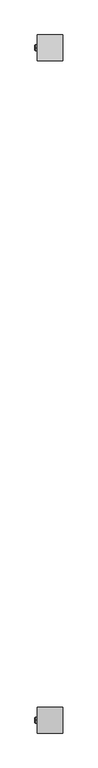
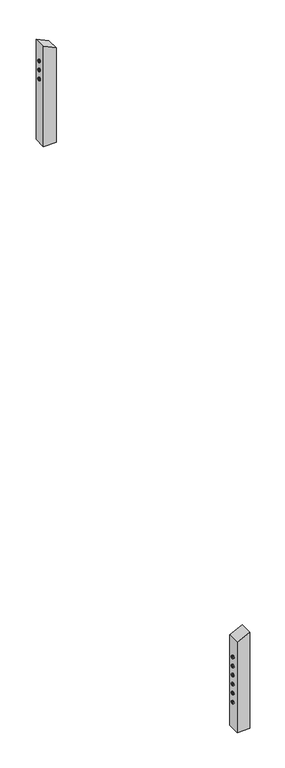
"""IFC4 building model written with IfcOpenShell, lengths in millimetres: railing geometry, HandiSwage Cable Railing System."""

from ifc_helpers import new_model, si_unit, point, frame, origin, place, context, project, spatial, polyline, circle_curve, ellipse_curve, trimmed, outline, extrude, source, transform, mapped, element, save
from ifc_brep_helpers import plane_surface, cylinder_surface, revolved_surface, advanced_brep


def railing_004ec19b(model_context):
    return source(origin(), model_context, "Body", "SolidModel", [
        advanced_brep(
        [(1654.9861243, 3759.4935787, 3984.737795), (1654.9861243, 3759.4935787, 3972.037795), (1654.9861243, 3759.4935787, 3997.437795), (1645.4611243, 3759.4935787, 3975.212795), (1645.4611243, 3759.4935787, 3984.737795), (1645.4611243, 3759.4935787, 3994.262795), (1648.6361243, 3759.4935787, 3972.037795), (1648.6361243, 3759.4935787, 3997.437795)],
        [
            (0, 1),
            (1, 2, circle_curve(frame((1654.9861243, 3759.4935787, 3984.737795), z_axis=(1.0, 0.0, 0.0), x_axis=(0.0, 0.0, 1.0)), 12.7)),
            (2, 0),
            (2, 1, circle_curve(frame((1654.9861243, 3759.4935787, 3984.737795), z_axis=(1.0, 0.0, 0.0), x_axis=(0.0, 0.0, 1.0)), 12.7)),
            (3, 4),
            (4, 5),
            (5, 3, circle_curve(frame((1645.4611243, 3759.4935787, 3984.737795), z_axis=(-1.0, 0.0, 0.0), x_axis=(0.0, 0.0, 1.0)), 9.525)),
            (3, 5, circle_curve(frame((1645.4611243, 3759.4935787, 3984.737795), z_axis=(-1.0, 0.0, 0.0), x_axis=(0.0, 0.0, 1.0)), 9.525)),
            (1, 6),
            (6, 7, circle_curve(frame((1648.6361243, 3759.4935787, 3984.737795), z_axis=(1.0, 0.0, 0.0), x_axis=(0.0, 0.0, 1.0)), 12.7)),
            (7, 2),
            (7, 6, circle_curve(frame((1648.6361243, 3759.4935787, 3984.737795), z_axis=(1.0, 0.0, 0.0), x_axis=(0.0, 0.0, 1.0)), 12.7)),
            (6, 3, circle_curve(frame((1648.6361243, 3759.4935787, 3975.212795), z_axis=(0.0, 1.0, 0.0), x_axis=(-1.0, 0.0, 0.0)), 3.175)),
            (5, 7, circle_curve(frame((1648.6361243, 3759.4935787, 3994.262795), z_axis=(0.0, 1.0, 0.0), x_axis=(-1.0, 0.0, 0.0)), 3.175)),
        ],
        [
            plane_surface(frame((1654.9861243, 3759.4935787, 3984.737795), z_axis=(1.0, 0.0, 0.0), x_axis=(0.0, 0.0, 1.0))),
            plane_surface(frame((1645.4611243, 3759.4935787, 3984.737795), z_axis=(-1.0, 0.0, 0.0), x_axis=(0.0, 0.0, 1.0))),
            cylinder_surface(frame((1654.9861243, 3759.4935787, 3984.737795), z_axis=(1.0, 0.0, 0.0), x_axis=(0.0, 0.0, 1.0)), 12.7),
            revolved_surface(trimmed(ellipse_curve(frame((1648.6361243, 3759.4935787, 3994.262795), z_axis=(0.0, 1.0, 0.0), x_axis=(-1.0, 0.0, 0.0)), 3.175, 3.175), [point((1645.4611243, 3759.4935787, 3994.262795))], [point((1648.6361243, 3759.4935787, 3997.437795))], True, "CARTESIAN"), (1654.9861243, 3759.4935787, 3984.737795), (1.0, 0.0, 0.0)),
        ],
        [
            (0, [[1, 2, 3]]),
            (0, [[-3, 4, -1]]),
            (1, [[5, 6, 7]]),
            (1, [[-6, -5, 8]]),
            (2, [[9, 10, 11, -2]]),
            (2, [[-11, 12, -9, -4]]),
            (3, [[13, -7, 14, -10]]),
            (3, [[-14, -8, -13, -12]]),
        ],
    ),
        advanced_brep(
        [(1654.9861243, 3759.4935787, 4060.937795), (1654.9861243, 3759.4935787, 4048.237795), (1654.9861243, 3759.4935787, 4073.637795), (1645.4611243, 3759.4935787, 4051.412795), (1645.4611243, 3759.4935787, 4060.937795), (1645.4611243, 3759.4935787, 4070.462795), (1648.6361243, 3759.4935787, 4048.237795), (1648.6361243, 3759.4935787, 4073.637795)],
        [
            (0, 1),
            (1, 2, circle_curve(frame((1654.9861243, 3759.4935787, 4060.937795), z_axis=(1.0, 0.0, 0.0), x_axis=(0.0, 0.0, 1.0)), 12.7)),
            (2, 0),
            (2, 1, circle_curve(frame((1654.9861243, 3759.4935787, 4060.937795), z_axis=(1.0, 0.0, 0.0), x_axis=(0.0, 0.0, 1.0)), 12.7)),
            (3, 4),
            (4, 5),
            (5, 3, circle_curve(frame((1645.4611243, 3759.4935787, 4060.937795), z_axis=(-1.0, 0.0, 0.0), x_axis=(0.0, 0.0, 1.0)), 9.525)),
            (3, 5, circle_curve(frame((1645.4611243, 3759.4935787, 4060.937795), z_axis=(-1.0, 0.0, 0.0), x_axis=(0.0, 0.0, 1.0)), 9.525)),
            (1, 6),
            (6, 7, circle_curve(frame((1648.6361243, 3759.4935787, 4060.937795), z_axis=(1.0, 0.0, 0.0), x_axis=(0.0, 0.0, 1.0)), 12.7)),
            (7, 2),
            (7, 6, circle_curve(frame((1648.6361243, 3759.4935787, 4060.937795), z_axis=(1.0, 0.0, 0.0), x_axis=(0.0, 0.0, 1.0)), 12.7)),
            (6, 3, circle_curve(frame((1648.6361243, 3759.4935787, 4051.412795), z_axis=(0.0, 1.0, 0.0), x_axis=(-1.0, 0.0, 0.0)), 3.175)),
            (5, 7, circle_curve(frame((1648.6361243, 3759.4935787, 4070.462795), z_axis=(0.0, 1.0, 0.0), x_axis=(-1.0, 0.0, 0.0)), 3.175)),
        ],
        [
            plane_surface(frame((1654.9861243, 3759.4935787, 4060.937795), z_axis=(1.0, 0.0, 0.0), x_axis=(0.0, 0.0, 1.0))),
            plane_surface(frame((1645.4611243, 3759.4935787, 4060.937795), z_axis=(-1.0, 0.0, 0.0), x_axis=(0.0, 0.0, 1.0))),
            cylinder_surface(frame((1654.9861243, 3759.4935787, 4060.937795), z_axis=(1.0, 0.0, 0.0), x_axis=(0.0, 0.0, 1.0)), 12.7),
            revolved_surface(trimmed(ellipse_curve(frame((1648.6361243, 3759.4935787, 4070.462795), z_axis=(0.0, 1.0, 0.0), x_axis=(-1.0, 0.0, 0.0)), 3.175, 3.175), [point((1645.4611243, 3759.4935787, 4070.462795))], [point((1648.6361243, 3759.4935787, 4073.637795))], True, "CARTESIAN"), (1654.9861243, 3759.4935787, 4060.937795), (1.0, 0.0, 0.0)),
        ],
        [
            (0, [[1, 2, 3]]),
            (0, [[-3, 4, -1]]),
            (1, [[5, 6, 7]]),
            (1, [[-6, -5, 8]]),
            (2, [[9, 10, 11, -2]]),
            (2, [[-11, 12, -9, -4]]),
            (3, [[13, -7, 14, -10]]),
            (3, [[-14, -8, -13, -12]]),
        ],
    ),
        advanced_brep(
        [(1654.9861243, 3759.4935787, 4137.137795), (1654.9861243, 3759.4935787, 4124.437795), (1654.9861243, 3759.4935787, 4149.837795), (1645.4611243, 3759.4935787, 4127.612795), (1645.4611243, 3759.4935787, 4137.137795), (1645.4611243, 3759.4935787, 4146.662795), (1648.6361243, 3759.4935787, 4124.437795), (1648.6361243, 3759.4935787, 4149.837795)],
        [
            (0, 1),
            (1, 2, circle_curve(frame((1654.9861243, 3759.4935787, 4137.137795), z_axis=(1.0, 0.0, 0.0), x_axis=(0.0, 0.0, 1.0)), 12.7)),
            (2, 0),
            (2, 1, circle_curve(frame((1654.9861243, 3759.4935787, 4137.137795), z_axis=(1.0, 0.0, 0.0), x_axis=(0.0, 0.0, 1.0)), 12.7)),
            (3, 4),
            (4, 5),
            (5, 3, circle_curve(frame((1645.4611243, 3759.4935787, 4137.137795), z_axis=(-1.0, 0.0, 0.0), x_axis=(0.0, 0.0, 1.0)), 9.525)),
            (3, 5, circle_curve(frame((1645.4611243, 3759.4935787, 4137.137795), z_axis=(-1.0, 0.0, 0.0), x_axis=(0.0, 0.0, 1.0)), 9.525)),
            (1, 6),
            (6, 7, circle_curve(frame((1648.6361243, 3759.4935787, 4137.137795), z_axis=(1.0, 0.0, 0.0), x_axis=(0.0, 0.0, 1.0)), 12.7)),
            (7, 2),
            (7, 6, circle_curve(frame((1648.6361243, 3759.4935787, 4137.137795), z_axis=(1.0, 0.0, 0.0), x_axis=(0.0, 0.0, 1.0)), 12.7)),
            (6, 3, circle_curve(frame((1648.6361243, 3759.4935787, 4127.612795), z_axis=(0.0, 1.0, 0.0), x_axis=(-1.0, 0.0, 0.0)), 3.175)),
            (5, 7, circle_curve(frame((1648.6361243, 3759.4935787, 4146.662795), z_axis=(0.0, 1.0, 0.0), x_axis=(-1.0, 0.0, 0.0)), 3.175)),
        ],
        [
            plane_surface(frame((1654.9861243, 3759.4935787, 4137.137795), z_axis=(1.0, 0.0, 0.0), x_axis=(0.0, 0.0, 1.0))),
            plane_surface(frame((1645.4611243, 3759.4935787, 4137.137795), z_axis=(-1.0, 0.0, 0.0), x_axis=(0.0, 0.0, 1.0))),
            cylinder_surface(frame((1654.9861243, 3759.4935787, 4137.137795), z_axis=(1.0, 0.0, 0.0), x_axis=(0.0, 0.0, 1.0)), 12.7),
            revolved_surface(trimmed(ellipse_curve(frame((1648.6361243, 3759.4935787, 4146.662795), z_axis=(0.0, 1.0, 0.0), x_axis=(-1.0, 0.0, 0.0)), 3.175, 3.175), [point((1645.4611243, 3759.4935787, 4146.662795))], [point((1648.6361243, 3759.4935787, 4149.837795))], True, "CARTESIAN"), (1654.9861243, 3759.4935787, 4137.137795), (1.0, 0.0, 0.0)),
        ],
        [
            (0, [[1, 2, 3]]),
            (0, [[-3, 4, -1]]),
            (1, [[5, 6, 7]]),
            (1, [[-6, -5, 8]]),
            (2, [[9, 10, 11, -2]]),
            (2, [[-11, 12, -9, -4]]),
            (3, [[13, -7, 14, -10]]),
            (3, [[-14, -8, -13, -12]]),
        ],
    ),
        extrude(outline(polyline([(3445.5652174, 1756.5861243), (4239.5403, 1756.5861243), (4287.7300233, 1654.9861243), (3445.5652174, 1654.9861243), (3445.5652174, 1756.5861243)])), frame((0.0, 3708.6935787, 0.0), z_axis=(0.0, 1.0, 0.0), x_axis=(0.0, 0.0, 1.0)), (0.0, 0.0, 1.0), 101.6),
        advanced_brep(
        [(1654.9861243, 1092.4935787, 359.8717342), (1654.9861243, 1092.4935787, 372.5717342), (1654.9861243, 1092.4935787, 347.1717342), (1645.4611243, 1092.4935787, 350.3467342), (1645.4611243, 1092.4935787, 369.3967342), (1645.4611243, 1092.4935787, 359.8717342), (1648.6361243, 1092.4935787, 372.5717342), (1648.6361243, 1092.4935787, 347.1717342)],
        [
            (0, 1),
            (1, 2, circle_curve(frame((1654.9861243, 1092.4935787, 359.8717342), z_axis=(1.0, 0.0, 0.0), x_axis=(0.0, 0.0, 1.0)), 12.7)),
            (2, 0),
            (2, 1, circle_curve(frame((1654.9861243, 1092.4935787, 359.8717342), z_axis=(1.0, 0.0, 0.0), x_axis=(0.0, 0.0, 1.0)), 12.7)),
            (3, 4, circle_curve(frame((1645.4611243, 1092.4935787, 359.8717342), z_axis=(-1.0, 0.0, 0.0), x_axis=(0.0, 0.0, 1.0)), 9.525)),
            (4, 5),
            (5, 3),
            (4, 3, circle_curve(frame((1645.4611243, 1092.4935787, 359.8717342), z_axis=(-1.0, 0.0, 0.0), x_axis=(0.0, 0.0, 1.0)), 9.525)),
            (1, 6),
            (6, 7, circle_curve(frame((1648.6361243, 1092.4935787, 359.8717342), z_axis=(1.0, 0.0, 0.0), x_axis=(0.0, 0.0, 1.0)), 12.7)),
            (7, 2),
            (7, 6, circle_curve(frame((1648.6361243, 1092.4935787, 359.8717342), z_axis=(1.0, 0.0, 0.0), x_axis=(0.0, 0.0, 1.0)), 12.7)),
            (6, 4, circle_curve(frame((1648.6361243, 1092.4935787, 369.3967342), z_axis=(0.0, -1.0, 0.0), x_axis=(-1.0, 0.0, 0.0)), 3.175)),
            (3, 7, circle_curve(frame((1648.6361243, 1092.4935787, 350.3467342), z_axis=(0.0, -1.0, 0.0), x_axis=(-1.0, 0.0, 0.0)), 3.175)),
        ],
        [
            plane_surface(frame((1654.9861243, 1092.4935787, 359.8717342), z_axis=(1.0, 0.0, 0.0), x_axis=(0.0, 0.0, 1.0))),
            plane_surface(frame((1645.4611243, 1092.4935787, 359.8717342), z_axis=(-1.0, 0.0, 0.0), x_axis=(0.0, 0.0, 1.0))),
            cylinder_surface(frame((1654.9861243, 1092.4935787, 359.8717342), z_axis=(1.0, 0.0, 0.0), x_axis=(0.0, 0.0, 1.0)), 12.7),
            revolved_surface(trimmed(ellipse_curve(frame((1648.6361243, 1092.4935787, 369.3967342), z_axis=(0.0, 1.0, 0.0), x_axis=(-1.0, 0.0, 0.0)), 3.175, 3.175), [point((1645.4611243, 1092.4935787, 369.3967342))], [point((1648.6361243, 1092.4935787, 372.5717342))], True, "CARTESIAN"), (1654.9861243, 1092.4935787, 359.8717342), (1.0, 0.0, 0.0)),
        ],
        [
            (0, [[1, 2, 3]]),
            (0, [[-3, 4, -1]]),
            (1, [[5, 6, 7]]),
            (1, [[8, -7, -6]]),
            (2, [[-2, 9, 10, 11]]),
            (2, [[-4, -11, 12, -9]]),
            (3, [[-10, 13, -5, 14]]),
            (3, [[-12, -14, -8, -13]]),
        ],
    ),
        advanced_brep(
        [(1654.9861243, 1092.4935787, 436.0717342), (1654.9861243, 1092.4935787, 448.7717342), (1654.9861243, 1092.4935787, 423.3717342), (1645.4611243, 1092.4935787, 426.5467342), (1645.4611243, 1092.4935787, 445.5967342), (1645.4611243, 1092.4935787, 436.0717342), (1648.6361243, 1092.4935787, 448.7717342), (1648.6361243, 1092.4935787, 423.3717342)],
        [
            (0, 1),
            (1, 2, circle_curve(frame((1654.9861243, 1092.4935787, 436.0717342), z_axis=(1.0, 0.0, 0.0), x_axis=(0.0, 0.0, 1.0)), 12.7)),
            (2, 0),
            (2, 1, circle_curve(frame((1654.9861243, 1092.4935787, 436.0717342), z_axis=(1.0, 0.0, 0.0), x_axis=(0.0, 0.0, 1.0)), 12.7)),
            (3, 4, circle_curve(frame((1645.4611243, 1092.4935787, 436.0717342), z_axis=(-1.0, 0.0, 0.0), x_axis=(0.0, 0.0, 1.0)), 9.525)),
            (4, 5),
            (5, 3),
            (4, 3, circle_curve(frame((1645.4611243, 1092.4935787, 436.0717342), z_axis=(-1.0, 0.0, 0.0), x_axis=(0.0, 0.0, 1.0)), 9.525)),
            (1, 6),
            (6, 7, circle_curve(frame((1648.6361243, 1092.4935787, 436.0717342), z_axis=(1.0, 0.0, 0.0), x_axis=(0.0, 0.0, 1.0)), 12.7)),
            (7, 2),
            (7, 6, circle_curve(frame((1648.6361243, 1092.4935787, 436.0717342), z_axis=(1.0, 0.0, 0.0), x_axis=(0.0, 0.0, 1.0)), 12.7)),
            (6, 4, circle_curve(frame((1648.6361243, 1092.4935787, 445.5967342), z_axis=(0.0, -1.0, 0.0), x_axis=(-1.0, 0.0, 0.0)), 3.175)),
            (3, 7, circle_curve(frame((1648.6361243, 1092.4935787, 426.5467342), z_axis=(0.0, -1.0, 0.0), x_axis=(-1.0, 0.0, 0.0)), 3.175)),
        ],
        [
            plane_surface(frame((1654.9861243, 1092.4935787, 436.0717342), z_axis=(1.0, 0.0, 0.0), x_axis=(0.0, 0.0, 1.0))),
            plane_surface(frame((1645.4611243, 1092.4935787, 436.0717342), z_axis=(-1.0, 0.0, 0.0), x_axis=(0.0, 0.0, 1.0))),
            cylinder_surface(frame((1654.9861243, 1092.4935787, 436.0717342), z_axis=(1.0, 0.0, 0.0), x_axis=(0.0, 0.0, 1.0)), 12.7),
            revolved_surface(trimmed(ellipse_curve(frame((1648.6361243, 1092.4935787, 445.5967342), z_axis=(0.0, 1.0, 0.0), x_axis=(-1.0, 0.0, 0.0)), 3.175, 3.175), [point((1645.4611243, 1092.4935787, 445.5967342))], [point((1648.6361243, 1092.4935787, 448.7717342))], True, "CARTESIAN"), (1654.9861243, 1092.4935787, 436.0717342), (1.0, 0.0, 0.0)),
        ],
        [
            (0, [[1, 2, 3]]),
            (0, [[-3, 4, -1]]),
            (1, [[5, 6, 7]]),
            (1, [[8, -7, -6]]),
            (2, [[-2, 9, 10, 11]]),
            (2, [[-4, -11, 12, -9]]),
            (3, [[-10, 13, -5, 14]]),
            (3, [[-12, -14, -8, -13]]),
        ],
    ),
        advanced_brep(
        [(1654.9861243, 1092.4935787, 512.2717342), (1654.9861243, 1092.4935787, 524.9717342), (1654.9861243, 1092.4935787, 499.5717342), (1645.4611243, 1092.4935787, 502.7467342), (1645.4611243, 1092.4935787, 521.7967342), (1645.4611243, 1092.4935787, 512.2717342), (1648.6361243, 1092.4935787, 524.9717342), (1648.6361243, 1092.4935787, 499.5717342)],
        [
            (0, 1),
            (1, 2, circle_curve(frame((1654.9861243, 1092.4935787, 512.2717342), z_axis=(1.0, 0.0, 0.0), x_axis=(0.0, 0.0, 1.0)), 12.7)),
            (2, 0),
            (2, 1, circle_curve(frame((1654.9861243, 1092.4935787, 512.2717342), z_axis=(1.0, 0.0, 0.0), x_axis=(0.0, 0.0, 1.0)), 12.7)),
            (3, 4, circle_curve(frame((1645.4611243, 1092.4935787, 512.2717342), z_axis=(-1.0, 0.0, 0.0), x_axis=(0.0, 0.0, 1.0)), 9.525)),
            (4, 5),
            (5, 3),
            (4, 3, circle_curve(frame((1645.4611243, 1092.4935787, 512.2717342), z_axis=(-1.0, 0.0, 0.0), x_axis=(0.0, 0.0, 1.0)), 9.525)),
            (1, 6),
            (6, 7, circle_curve(frame((1648.6361243, 1092.4935787, 512.2717342), z_axis=(1.0, 0.0, 0.0), x_axis=(0.0, 0.0, 1.0)), 12.7)),
            (7, 2),
            (7, 6, circle_curve(frame((1648.6361243, 1092.4935787, 512.2717342), z_axis=(1.0, 0.0, 0.0), x_axis=(0.0, 0.0, 1.0)), 12.7)),
            (6, 4, circle_curve(frame((1648.6361243, 1092.4935787, 521.7967342), z_axis=(0.0, -1.0, 0.0), x_axis=(-1.0, 0.0, 0.0)), 3.175)),
            (3, 7, circle_curve(frame((1648.6361243, 1092.4935787, 502.7467342), z_axis=(0.0, -1.0, 0.0), x_axis=(-1.0, 0.0, 0.0)), 3.175)),
        ],
        [
            plane_surface(frame((1654.9861243, 1092.4935787, 512.2717342), z_axis=(1.0, 0.0, 0.0), x_axis=(0.0, 0.0, 1.0))),
            plane_surface(frame((1645.4611243, 1092.4935787, 512.2717342), z_axis=(-1.0, 0.0, 0.0), x_axis=(0.0, 0.0, 1.0))),
            cylinder_surface(frame((1654.9861243, 1092.4935787, 512.2717342), z_axis=(1.0, 0.0, 0.0), x_axis=(0.0, 0.0, 1.0)), 12.7),
            revolved_surface(trimmed(ellipse_curve(frame((1648.6361243, 1092.4935787, 521.7967342), z_axis=(0.0, 1.0, 0.0), x_axis=(-1.0, 0.0, 0.0)), 3.175, 3.175), [point((1645.4611243, 1092.4935787, 521.7967342))], [point((1648.6361243, 1092.4935787, 524.9717342))], True, "CARTESIAN"), (1654.9861243, 1092.4935787, 512.2717342), (1.0, 0.0, 0.0)),
        ],
        [
            (0, [[1, 2, 3]]),
            (0, [[-3, 4, -1]]),
            (1, [[5, 6, 7]]),
            (1, [[8, -7, -6]]),
            (2, [[-2, 9, 10, 11]]),
            (2, [[-4, -11, 12, -9]]),
            (3, [[-10, 13, -5, 14]]),
            (3, [[-12, -14, -8, -13]]),
        ],
    ),
        advanced_brep(
        [(1654.9861243, 1092.4935787, 588.4717342), (1654.9861243, 1092.4935787, 601.1717342), (1654.9861243, 1092.4935787, 575.7717342), (1645.4611243, 1092.4935787, 578.9467342), (1645.4611243, 1092.4935787, 597.9967342), (1645.4611243, 1092.4935787, 588.4717342), (1648.6361243, 1092.4935787, 601.1717342), (1648.6361243, 1092.4935787, 575.7717342)],
        [
            (0, 1),
            (1, 2, circle_curve(frame((1654.9861243, 1092.4935787, 588.4717342), z_axis=(1.0, 0.0, 0.0), x_axis=(0.0, 0.0, 1.0)), 12.7)),
            (2, 0),
            (2, 1, circle_curve(frame((1654.9861243, 1092.4935787, 588.4717342), z_axis=(1.0, 0.0, 0.0), x_axis=(0.0, 0.0, 1.0)), 12.7)),
            (3, 4, circle_curve(frame((1645.4611243, 1092.4935787, 588.4717342), z_axis=(-1.0, 0.0, 0.0), x_axis=(0.0, 0.0, 1.0)), 9.525)),
            (4, 5),
            (5, 3),
            (4, 3, circle_curve(frame((1645.4611243, 1092.4935787, 588.4717342), z_axis=(-1.0, 0.0, 0.0), x_axis=(0.0, 0.0, 1.0)), 9.525)),
            (1, 6),
            (6, 7, circle_curve(frame((1648.6361243, 1092.4935787, 588.4717342), z_axis=(1.0, 0.0, 0.0), x_axis=(0.0, 0.0, 1.0)), 12.7)),
            (7, 2),
            (7, 6, circle_curve(frame((1648.6361243, 1092.4935787, 588.4717342), z_axis=(1.0, 0.0, 0.0), x_axis=(0.0, 0.0, 1.0)), 12.7)),
            (6, 4, circle_curve(frame((1648.6361243, 1092.4935787, 597.9967342), z_axis=(0.0, -1.0, 0.0), x_axis=(-1.0, 0.0, 0.0)), 3.175)),
            (3, 7, circle_curve(frame((1648.6361243, 1092.4935787, 578.9467342), z_axis=(0.0, -1.0, 0.0), x_axis=(-1.0, 0.0, 0.0)), 3.175)),
        ],
        [
            plane_surface(frame((1654.9861243, 1092.4935787, 588.4717342), z_axis=(1.0, 0.0, 0.0), x_axis=(0.0, 0.0, 1.0))),
            plane_surface(frame((1645.4611243, 1092.4935787, 588.4717342), z_axis=(-1.0, 0.0, 0.0), x_axis=(0.0, 0.0, 1.0))),
            cylinder_surface(frame((1654.9861243, 1092.4935787, 588.4717342), z_axis=(1.0, 0.0, 0.0), x_axis=(0.0, 0.0, 1.0)), 12.7),
            revolved_surface(trimmed(ellipse_curve(frame((1648.6361243, 1092.4935787, 597.9967342), z_axis=(0.0, 1.0, 0.0), x_axis=(-1.0, 0.0, 0.0)), 3.175, 3.175), [point((1645.4611243, 1092.4935787, 597.9967342))], [point((1648.6361243, 1092.4935787, 601.1717342))], True, "CARTESIAN"), (1654.9861243, 1092.4935787, 588.4717342), (1.0, 0.0, 0.0)),
        ],
        [
            (0, [[1, 2, 3]]),
            (0, [[-3, 4, -1]]),
            (1, [[5, 6, 7]]),
            (1, [[8, -7, -6]]),
            (2, [[-2, 9, 10, 11]]),
            (2, [[-4, -11, 12, -9]]),
            (3, [[-10, 13, -5, 14]]),
            (3, [[-12, -14, -8, -13]]),
        ],
    ),
        advanced_brep(
        [(1654.9861243, 1092.4935787, 664.6717342), (1654.9861243, 1092.4935787, 677.3717342), (1654.9861243, 1092.4935787, 651.9717342), (1645.4611243, 1092.4935787, 655.1467342), (1645.4611243, 1092.4935787, 674.1967342), (1645.4611243, 1092.4935787, 664.6717342), (1648.6361243, 1092.4935787, 677.3717342), (1648.6361243, 1092.4935787, 651.9717342)],
        [
            (0, 1),
            (1, 2, circle_curve(frame((1654.9861243, 1092.4935787, 664.6717342), z_axis=(1.0, 0.0, 0.0), x_axis=(0.0, 0.0, 1.0)), 12.7)),
            (2, 0),
            (2, 1, circle_curve(frame((1654.9861243, 1092.4935787, 664.6717342), z_axis=(1.0, 0.0, 0.0), x_axis=(0.0, 0.0, 1.0)), 12.7)),
            (3, 4, circle_curve(frame((1645.4611243, 1092.4935787, 664.6717342), z_axis=(-1.0, 0.0, 0.0), x_axis=(0.0, 0.0, 1.0)), 9.525)),
            (4, 5),
            (5, 3),
            (4, 3, circle_curve(frame((1645.4611243, 1092.4935787, 664.6717342), z_axis=(-1.0, 0.0, 0.0), x_axis=(0.0, 0.0, 1.0)), 9.525)),
            (1, 6),
            (6, 7, circle_curve(frame((1648.6361243, 1092.4935787, 664.6717342), z_axis=(1.0, 0.0, 0.0), x_axis=(0.0, 0.0, 1.0)), 12.7)),
            (7, 2),
            (7, 6, circle_curve(frame((1648.6361243, 1092.4935787, 664.6717342), z_axis=(1.0, 0.0, 0.0), x_axis=(0.0, 0.0, 1.0)), 12.7)),
            (6, 4, circle_curve(frame((1648.6361243, 1092.4935787, 674.1967342), z_axis=(0.0, -1.0, 0.0), x_axis=(-1.0, 0.0, 0.0)), 3.175)),
            (3, 7, circle_curve(frame((1648.6361243, 1092.4935787, 655.1467342), z_axis=(0.0, -1.0, 0.0), x_axis=(-1.0, 0.0, 0.0)), 3.175)),
        ],
        [
            plane_surface(frame((1654.9861243, 1092.4935787, 664.6717342), z_axis=(1.0, 0.0, 0.0), x_axis=(0.0, 0.0, 1.0))),
            plane_surface(frame((1645.4611243, 1092.4935787, 664.6717342), z_axis=(-1.0, 0.0, 0.0), x_axis=(0.0, 0.0, 1.0))),
            cylinder_surface(frame((1654.9861243, 1092.4935787, 664.6717342), z_axis=(1.0, 0.0, 0.0), x_axis=(0.0, 0.0, 1.0)), 12.7),
            revolved_surface(trimmed(ellipse_curve(frame((1648.6361243, 1092.4935787, 674.1967342), z_axis=(0.0, 1.0, 0.0), x_axis=(-1.0, 0.0, 0.0)), 3.175, 3.175), [point((1645.4611243, 1092.4935787, 674.1967342))], [point((1648.6361243, 1092.4935787, 677.3717342))], True, "CARTESIAN"), (1654.9861243, 1092.4935787, 664.6717342), (1.0, 0.0, 0.0)),
        ],
        [
            (0, [[1, 2, 3]]),
            (0, [[-3, 4, -1]]),
            (1, [[5, 6, 7]]),
            (1, [[8, -7, -6]]),
            (2, [[-2, 9, 10, 11]]),
            (2, [[-4, -11, 12, -9]]),
            (3, [[-10, 13, -5, 14]]),
            (3, [[-12, -14, -8, -13]]),
        ],
    ),
        advanced_brep(
        [(1654.9861243, 1092.4935787, 740.8717342), (1654.9861243, 1092.4935787, 753.5717342), (1654.9861243, 1092.4935787, 728.1717342), (1645.4611243, 1092.4935787, 731.3467342), (1645.4611243, 1092.4935787, 750.3967342), (1645.4611243, 1092.4935787, 740.8717342), (1648.6361243, 1092.4935787, 753.5717342), (1648.6361243, 1092.4935787, 728.1717342)],
        [
            (0, 1),
            (1, 2, circle_curve(frame((1654.9861243, 1092.4935787, 740.8717342), z_axis=(1.0, 0.0, 0.0), x_axis=(0.0, 0.0, 1.0)), 12.7)),
            (2, 0),
            (2, 1, circle_curve(frame((1654.9861243, 1092.4935787, 740.8717342), z_axis=(1.0, 0.0, 0.0), x_axis=(0.0, 0.0, 1.0)), 12.7)),
            (3, 4, circle_curve(frame((1645.4611243, 1092.4935787, 740.8717342), z_axis=(-1.0, 0.0, 0.0), x_axis=(0.0, 0.0, 1.0)), 9.525)),
            (4, 5),
            (5, 3),
            (4, 3, circle_curve(frame((1645.4611243, 1092.4935787, 740.8717342), z_axis=(-1.0, 0.0, 0.0), x_axis=(0.0, 0.0, 1.0)), 9.525)),
            (1, 6),
            (6, 7, circle_curve(frame((1648.6361243, 1092.4935787, 740.8717342), z_axis=(1.0, 0.0, 0.0), x_axis=(0.0, 0.0, 1.0)), 12.7)),
            (7, 2),
            (7, 6, circle_curve(frame((1648.6361243, 1092.4935787, 740.8717342), z_axis=(1.0, 0.0, 0.0), x_axis=(0.0, 0.0, 1.0)), 12.7)),
            (6, 4, circle_curve(frame((1648.6361243, 1092.4935787, 750.3967342), z_axis=(0.0, -1.0, 0.0), x_axis=(-1.0, 0.0, 0.0)), 3.175)),
            (3, 7, circle_curve(frame((1648.6361243, 1092.4935787, 731.3467342), z_axis=(0.0, -1.0, 0.0), x_axis=(-1.0, 0.0, 0.0)), 3.175)),
        ],
        [
            plane_surface(frame((1654.9861243, 1092.4935787, 740.8717342), z_axis=(1.0, 0.0, 0.0), x_axis=(0.0, 0.0, 1.0))),
            plane_surface(frame((1645.4611243, 1092.4935787, 740.8717342), z_axis=(-1.0, 0.0, 0.0), x_axis=(0.0, 0.0, 1.0))),
            cylinder_surface(frame((1654.9861243, 1092.4935787, 740.8717342), z_axis=(1.0, 0.0, 0.0), x_axis=(0.0, 0.0, 1.0)), 12.7),
            revolved_surface(trimmed(ellipse_curve(frame((1648.6361243, 1092.4935787, 750.3967342), z_axis=(0.0, 1.0, 0.0), x_axis=(-1.0, 0.0, 0.0)), 3.175, 3.175), [point((1645.4611243, 1092.4935787, 750.3967342))], [point((1648.6361243, 1092.4935787, 753.5717342))], True, "CARTESIAN"), (1654.9861243, 1092.4935787, 740.8717342), (1.0, 0.0, 0.0)),
        ],
        [
            (0, [[1, 2, 3]]),
            (0, [[-3, 4, -1]]),
            (1, [[5, 6, 7]]),
            (1, [[8, -7, -6]]),
            (2, [[-2, 9, 10, 11]]),
            (2, [[-4, -11, 12, -9]]),
            (3, [[-10, 13, -5, 14]]),
            (3, [[-12, -14, -8, -13]]),
        ],
    ),
        extrude(outline(polyline([(893.366387, 1654.9861243), (132.5217391, 1654.9861243), (132.5217391, 1756.5861243), (941.5561103, 1756.5861243), (893.366387, 1654.9861243)])), frame((0.0, 1041.6935787, 0.0), z_axis=(0.0, 1.0, 0.0), x_axis=(0.0, 0.0, 1.0)), (0.0, 0.0, 1.0), 101.6),
    ])


if __name__ == "__main__":
    model = new_model("IFC4")
    model_context = context("Model", 3, world=origin())
    ifc_project = project(units=[si_unit("LENGTHUNIT", "METRE", prefix="MILLI")], contexts=[model_context])
    site = spatial("IfcSite", under=ifc_project)
    building = spatial("IfcBuilding", under=site)
    placement = place(None, origin())
    railing_shape = railing_004ec19b(model_context)
    element("IfcRailing", 1, ObjectType="HandiSwage Cable Railing System", at=placement, inside=building, context=model_context, shape_type="MappedRepresentation", body=[
        mapped(railing_shape, transform((0.0, 0.0, 0.0), x_axis=(1.0, 0.0, 0.0), y_axis=(0.0, 1.0, 0.0), z_axis=(0.0, 0.0, 1.0))),
    ])
    save(model, "model.ifc")
